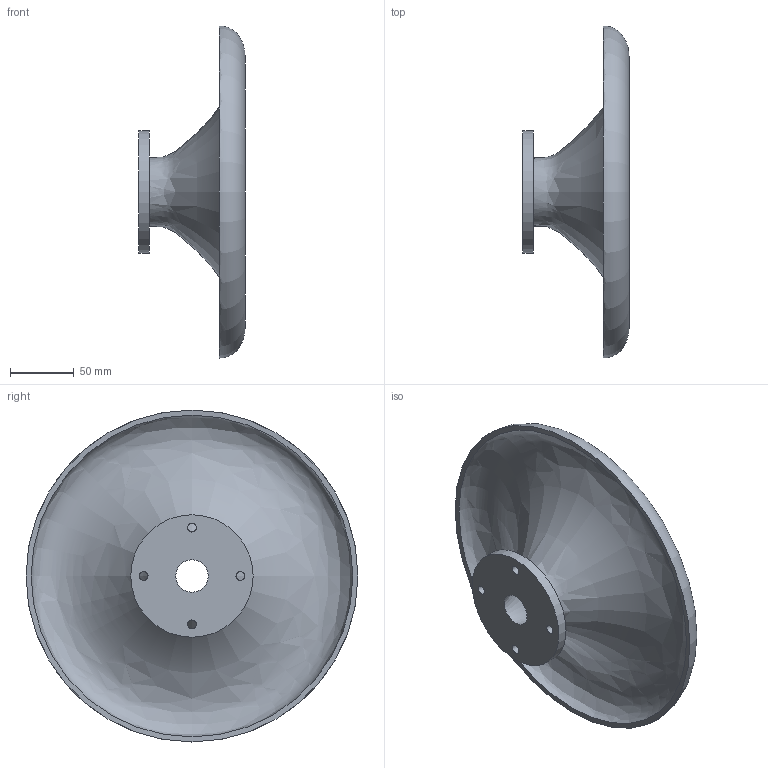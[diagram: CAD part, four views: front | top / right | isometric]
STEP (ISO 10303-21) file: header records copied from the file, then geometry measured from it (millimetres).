
FILE_DESCRIPTION(/* description */ (''),/* implementation_level */ '2;1');
FILE_NAME(/* name */ 'C:/Users/batik/Desktop/ST260-19-4H v1.step',/* time_stamp */ '2021-07-31T08:04:47+02:00',/* author */ (''),/* organization */ (''),/* preprocessor_version */ 'ST-DEVELOPER v18.1',/* originating_system */ 'Autodesk Translation Framework v10.9.0.1377',/* authorisation */ '');
FILE_SCHEMA (('AUTOMOTIVE_DESIGN { 1 0 10303 214 3 1 1 }'));
Length unit declared in the file: millimetre
Products named in the file (1): ST260-19-4H
Bounding box: 83.23 x 260.39 x 260.41 mm (x, y, z)
Volume: 326357.9 mm3; surface area: 150778.2 mm2
Topology: 1 solids, 1 shells, 10 faces, 24 edges, 16 vertices
Faces by surface type: cylinder 5, plane 2, bspline 2, cone 1
Full cylindrical faces by diameter (mm): 7 x4, 96 x1
Entity records: 6346 total; most frequent: CARTESIAN_POINT 6047, DIRECTION 56, ORIENTED_EDGE 48, AXIS2_PLACEMENT_3D 25, EDGE_CURVE 24, EDGE_LOOP 20, CIRCLE 16, VERTEX_POINT 16
